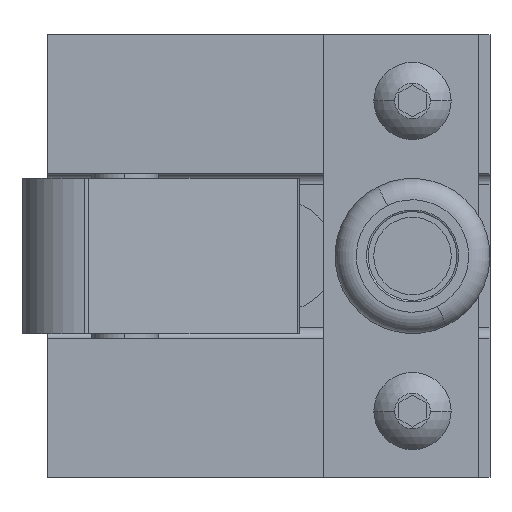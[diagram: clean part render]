
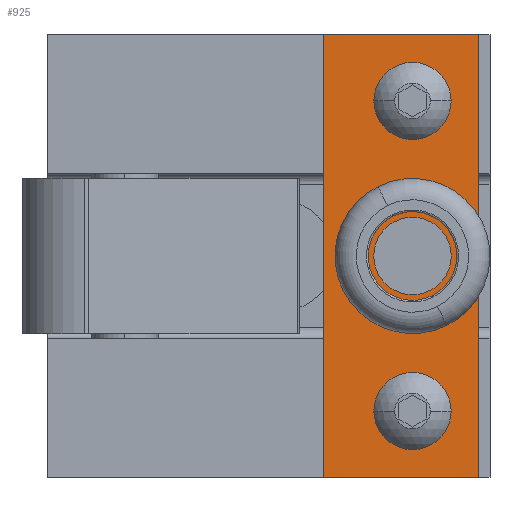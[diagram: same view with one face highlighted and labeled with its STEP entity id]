
A CAD part, left-side view. The second image highlights one B-rep face of the part: STEP entity #925.
In plain terms, the highlighted planar face has unit normal (-1, 0, 0).
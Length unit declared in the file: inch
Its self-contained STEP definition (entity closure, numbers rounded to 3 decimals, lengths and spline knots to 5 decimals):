
#798 = EDGE_CURVE ( 'NONE', #887, #799, #13472, .T. ) ;
#799 = VERTEX_POINT ( 'NONE', #13722 ) ;
#814 = ORIENTED_EDGE ( 'NONE', *, *, #831, .F. ) ;
#816 = EDGE_CURVE ( 'NONE', #817, #828, #13705, .T. ) ;
#817 = VERTEX_POINT ( 'NONE', #13728 ) ;
#819 = ORIENTED_EDGE ( 'NONE', *, *, #1007, .F. ) ;
#820 = EDGE_LOOP ( 'NONE', ( #896, #861 ) ) ;
#828 = VERTEX_POINT ( 'NONE', #13710 ) ;
#831 = EDGE_CURVE ( 'NONE', #1008, #1005, #13692, .T. ) ;
#832 = EDGE_CURVE ( 'NONE', #926, #920, #13693, .T. ) ;
#860 = EDGE_CURVE ( 'NONE', #799, #887, #13663, .T. ) ;
#861 = ORIENTED_EDGE ( 'NONE', *, *, #798, .F. ) ;
#875 = EDGE_LOOP ( 'NONE', ( #814, #819 ) ) ;
#887 = VERTEX_POINT ( 'NONE', #13673 ) ;
#896 = ORIENTED_EDGE ( 'NONE', *, *, #860, .F. ) ;
#920 = VERTEX_POINT ( 'NONE', #13758 ) ;
#925 = ADVANCED_FACE ( 'NONE', ( #13785, #13784, #13783, #13782 ), #13781, .T. ) ;
#926 = VERTEX_POINT ( 'NONE', #13805 ) ;
#941 = EDGE_CURVE ( 'NONE', #977, #959, #13838, .T. ) ;
#942 = ORIENTED_EDGE ( 'NONE', *, *, #976, .F. ) ;
#955 = EDGE_LOOP ( 'NONE', ( #956, #942 ) ) ;
#956 = ORIENTED_EDGE ( 'NONE', *, *, #941, .F. ) ;
#959 = VERTEX_POINT ( 'NONE', #13748 ) ;
#976 = EDGE_CURVE ( 'NONE', #959, #977, #13904, .T. ) ;
#977 = VERTEX_POINT ( 'NONE', #13899 ) ;
#991 = ORIENTED_EDGE ( 'NONE', *, *, #816, .F. ) ;
#992 = ORIENTED_EDGE ( 'NONE', *, *, #1021, .T. ) ;
#1005 = VERTEX_POINT ( 'NONE', #13915 ) ;
#1007 = EDGE_CURVE ( 'NONE', #1005, #1008, #13914, .T. ) ;
#1008 = VERTEX_POINT ( 'NONE', #13909 ) ;
#1010 = EDGE_LOOP ( 'NONE', ( #1011, #1012, #991, #992 ) ) ;
#1011 = ORIENTED_EDGE ( 'NONE', *, *, #832, .T. ) ;
#1012 = ORIENTED_EDGE ( 'NONE', *, *, #1013, .F. ) ;
#1013 = EDGE_CURVE ( 'NONE', #828, #920, #13863, .T. ) ;
#1021 = EDGE_CURVE ( 'NONE', #817, #926, #13888, .T. ) ;
#13468 = DIRECTION ( 'NONE',  ( 0., 0., 1. ) ) ;
#13469 = DIRECTION ( 'NONE',  ( -1., 0., 0. ) ) ;
#13470 = CARTESIAN_POINT ( 'NONE',  ( -0.5, 0.375, 0.875 ) ) ;
#13471 = AXIS2_PLACEMENT_3D ( 'NONE', #13470, #13469, #13468 ) ;
#13472 = CIRCLE ( 'NONE', #13471, 0.14062 ) ;
#13591 = VECTOR ( 'NONE', #13659, 39.37008 ) ;
#13657 = DIRECTION ( 'NONE',  ( 0., 0., 1. ) ) ;
#13658 = DIRECTION ( 'NONE',  ( -1., 0., 0. ) ) ;
#13659 = DIRECTION ( 'NONE',  ( 0., 0., 1. ) ) ;
#13660 = CARTESIAN_POINT ( 'NONE',  ( -0.5, 0., -1.25 ) ) ;
#13661 = CARTESIAN_POINT ( 'NONE',  ( -0.5, 0.375, 0.875 ) ) ;
#13662 = AXIS2_PLACEMENT_3D ( 'NONE', #13661, #13658, #13657 ) ;
#13663 = CIRCLE ( 'NONE', #13662, 0.14062 ) ;
#13673 = CARTESIAN_POINT ( 'NONE',  ( -0.5, 0.375, 0.73438 ) ) ;
#13688 = DIRECTION ( 'NONE',  ( 0., 0., 1. ) ) ;
#13689 = DIRECTION ( 'NONE',  ( -1., 0., 0. ) ) ;
#13690 = CARTESIAN_POINT ( 'NONE',  ( -0.5, 0.375, 0. ) ) ;
#13691 = AXIS2_PLACEMENT_3D ( 'NONE', #13690, #13689, #13688 ) ;
#13692 = CIRCLE ( 'NONE', #13691, 0.21875 ) ;
#13693 = LINE ( 'NONE', #13660, #13591 ) ;
#13704 = CARTESIAN_POINT ( 'NONE',  ( -0.5, 0.875, -1.25 ) ) ;
#13705 = LINE ( 'NONE', #13704, #13730 ) ;
#13710 = CARTESIAN_POINT ( 'NONE',  ( -0.5, 0.875, 1.25 ) ) ;
#13722 = CARTESIAN_POINT ( 'NONE',  ( -0.5, 0.375, 1.01562 ) ) ;
#13728 = CARTESIAN_POINT ( 'NONE',  ( -0.5, 0.875, -1.25 ) ) ;
#13729 = DIRECTION ( 'NONE',  ( 0., 0., 1. ) ) ;
#13730 = VECTOR ( 'NONE', #13729, 39.37008 ) ;
#13748 = CARTESIAN_POINT ( 'NONE',  ( -0.5, 0.375, -1.01563 ) ) ;
#13758 = CARTESIAN_POINT ( 'NONE',  ( -0.5, 0., 1.25 ) ) ;
#13781 = PLANE ( 'NONE',  #13804 ) ;
#13782 = FACE_OUTER_BOUND ( 'NONE', #1010, .T. ) ;
#13783 = FACE_BOUND ( 'NONE', #955, .T. ) ;
#13784 = FACE_BOUND ( 'NONE', #820, .T. ) ;
#13785 = FACE_BOUND ( 'NONE', #875, .T. ) ;
#13791 = DIRECTION ( 'NONE',  ( 0., 0., 1. ) ) ;
#13792 = DIRECTION ( 'NONE',  ( -1., 0., 0. ) ) ;
#13793 = AXIS2_PLACEMENT_3D ( 'NONE', #13837, #13792, #13791 ) ;
#13801 = DIRECTION ( 'NONE',  ( 0., 0., 1. ) ) ;
#13802 = DIRECTION ( 'NONE',  ( -1., 0., 0. ) ) ;
#13803 = CARTESIAN_POINT ( 'NONE',  ( -0.5, 0., -1.25 ) ) ;
#13804 = AXIS2_PLACEMENT_3D ( 'NONE', #13803, #13802, #13801 ) ;
#13805 = CARTESIAN_POINT ( 'NONE',  ( -0.5, 0., -1.25 ) ) ;
#13837 = CARTESIAN_POINT ( 'NONE',  ( -0.5, 0.375, -0.875 ) ) ;
#13838 = CIRCLE ( 'NONE', #13793, 0.14062 ) ;
#13860 = DIRECTION ( 'NONE',  ( 0., -1., 0. ) ) ;
#13861 = VECTOR ( 'NONE', #13860, 39.37008 ) ;
#13862 = CARTESIAN_POINT ( 'NONE',  ( -0.5, 0., 1.25 ) ) ;
#13863 = LINE ( 'NONE', #13862, #13861 ) ;
#13885 = DIRECTION ( 'NONE',  ( 0., -1., 0. ) ) ;
#13886 = VECTOR ( 'NONE', #13885, 39.37008 ) ;
#13887 = CARTESIAN_POINT ( 'NONE',  ( -0.5, 0., -1.25 ) ) ;
#13888 = LINE ( 'NONE', #13887, #13886 ) ;
#13899 = CARTESIAN_POINT ( 'NONE',  ( -0.5, 0.375, -0.73438 ) ) ;
#13900 = DIRECTION ( 'NONE',  ( 0., 0., 1. ) ) ;
#13901 = DIRECTION ( 'NONE',  ( -1., 0., 0. ) ) ;
#13902 = CARTESIAN_POINT ( 'NONE',  ( -0.5, 0.375, -0.875 ) ) ;
#13903 = AXIS2_PLACEMENT_3D ( 'NONE', #13902, #13901, #13900 ) ;
#13904 = CIRCLE ( 'NONE', #13903, 0.14062 ) ;
#13909 = CARTESIAN_POINT ( 'NONE',  ( -0.5, 0.375, 0.21875 ) ) ;
#13910 = DIRECTION ( 'NONE',  ( 0., 0., 1. ) ) ;
#13911 = DIRECTION ( 'NONE',  ( -1., 0., 0. ) ) ;
#13912 = CARTESIAN_POINT ( 'NONE',  ( -0.5, 0.375, 0. ) ) ;
#13913 = AXIS2_PLACEMENT_3D ( 'NONE', #13912, #13911, #13910 ) ;
#13914 = CIRCLE ( 'NONE', #13913, 0.21875 ) ;
#13915 = CARTESIAN_POINT ( 'NONE',  ( -0.5, 0.375, -0.21875 ) ) ;
